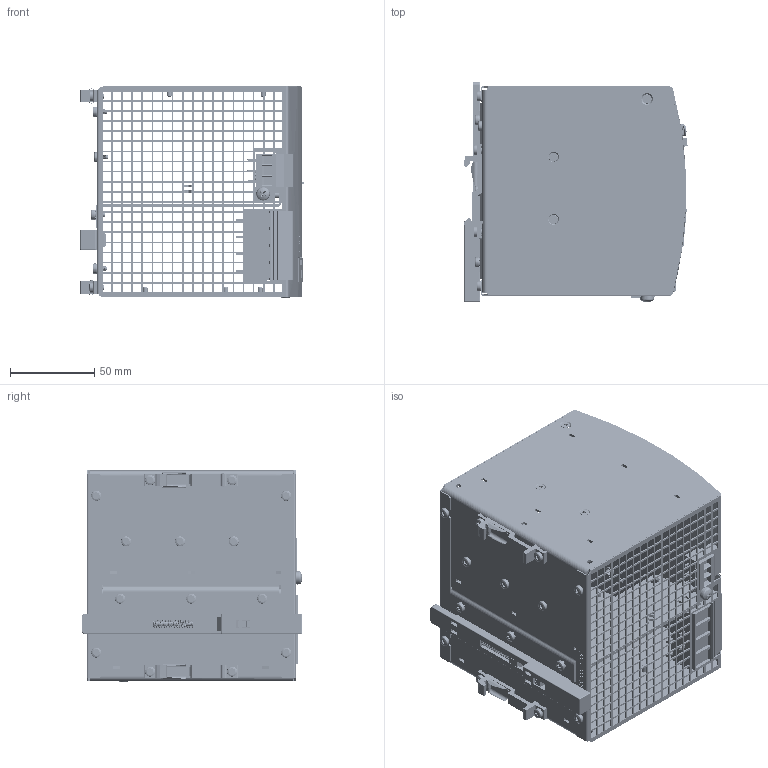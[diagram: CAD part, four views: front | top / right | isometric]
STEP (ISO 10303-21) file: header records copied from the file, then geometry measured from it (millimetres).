
FILE_DESCRIPTION((''),'2;1');
FILE_NAME('C:\Users\rahns\Desktop\Sylvia Info´s\Dateien für Vertrieb\QS40\md3_qs40 _241.stp','2012-11-06T10:12:37',('rahns'),(''),'Autodesk Inventor 2009','Autodesk Inventor 2009','');
FILE_SCHEMA(('AUTOMOTIVE_DESIGN { 1 0 10303 214 1 1 1 1 }'));
Length unit declared in the file: millimetre
Products named in the file (25): 384; EW-384.992; EW-384.991; EW-353.900; EW-360.910; ED-T3006_7500-10; ED-T3006_7500-15; ED-4008_7985-10; EA-348.920; ED-B40_127-10; ED-B40_127-A2; ED-A32_6797-10; AP-384; EW-374.992; EW-100.974; EW-100.975; EF-DRUFE1-10; ALT_ XT-LP4SW-R3; XT-LP3BK-D1; XT-LP2BK-D5; LED GN; LED RD; FRONTFOIL 384; EW-289.980; XA-KS_G-A9
Assembly tree (53 placements, depth 3):
  384
    EW-384.992
    EW-384.991
    EW-353.900
    EW-360.910
    ED-T3006_7500-10  x12
    ED-T3006_7500-15  x4
    ED-4008_7985-10  x2
    EA-348.920
    ED-B40_127-10
    ED-B40_127-A2
    ED-A32_6797-10  x5
    AP-384
      EW-374.992
      EW-353.900
      EW-360.910
      EW-100.974
      EW-100.975
      EF-DRUFE1-10
      ED-T3006_7500-15  x5
      ALT_ XT-LP4SW-R3
      ED-T3006_7500-10  x2
    XT-LP3BK-D1
    XT-LP2BK-D5  x2
    LED GN
    LED RD
    FRONTFOIL 384
    EW-289.980
    XA-KS_G-A9
Bounding box: 132.46 x 130.77 x 125.19 mm (x, y, z)
Volume: 134537.2 mm3; surface area: 222693.5 mm2
Topology: 52 solids, 52 shells, 6400 faces, 18100 edges, 11991 vertices
Faces by surface type: plane 4578, cylinder 965, bspline 696, cone 74, torus 73, sphere 14
Full cylindrical faces by diameter (mm): 0.5 x2, 1 x2, 2.18 x14, 2.45 x12, 2.5 x126, 2.696 x1, 2.7 x1, 2.9 x1, 3 x10, 3.1 x6, 3.145 x1, 3.2 x10, 3.4 x4, 3.5 x2, 3.621 x2, 4 x3, 4.355 x1, 4.5 x4, 4.6 x2, 5.15 x3, 5.5 x9, 6 x14, 7 x4
Entity records: 197026 total; most frequent: CARTESIAN_POINT 56481, ORIENTED_EDGE 30290, DIRECTION 24868, EDGE_CURVE 15145, VECTOR 12658, LINE 12658, VERTEX_POINT 10126, EDGE_LOOP 7143
